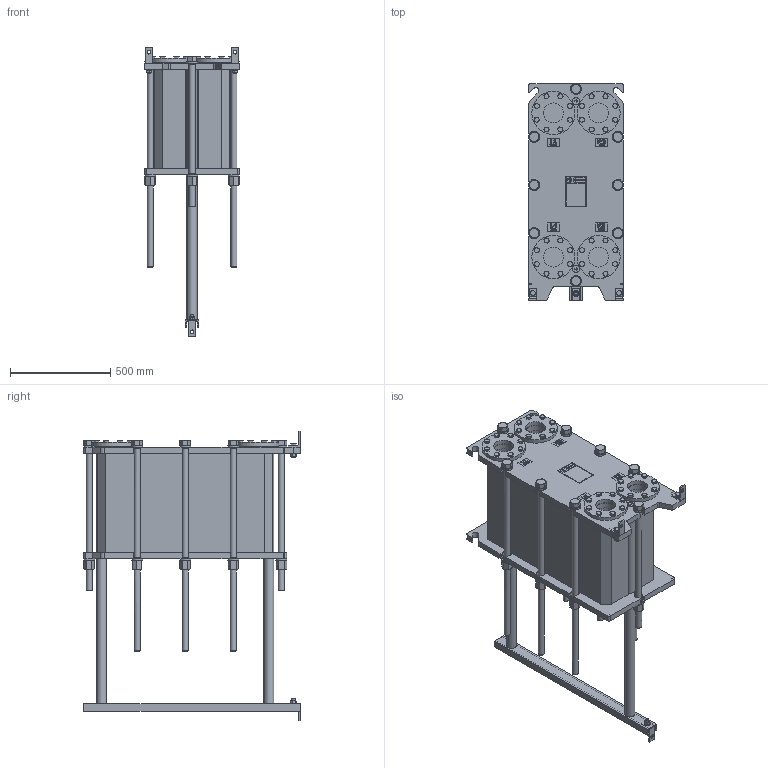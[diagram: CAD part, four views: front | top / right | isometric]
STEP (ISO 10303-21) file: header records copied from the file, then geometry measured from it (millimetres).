
FILE_DESCRIPTION (( 'STEP AP214' ), '1' );
FILE_NAME ('ÏÒ SX100 ðåä.4 ê ñèãìà 134...220.STEP', '2021-04-12T23:33:10', ( '' ), ( '' ), 'SwSTEP 2.0', 'SolidWorks 2018', '' );
FILE_SCHEMA (( 'AUTOMOTIVE_DESIGN' ));
Length unit declared in the file: millimetre
Products named in the file (3): ÏÒ SX100 ðåä.4 ê ñèãìà1; ÏÒ SX100 ðåä.4 ê ñèãìà2 134...220; ÏÒ SX100 ðåä.4 ê ñèãìà 134...220
Assembly tree (2 placements, depth 2):
  ÏÒ SX100 ðåä.4 ê ñèãìà 134...220
    ÏÒ SX100 ðåä.4 ê ñèãìà2 134...220
    ÏÒ SX100 ðåä.4 ê ñèãìà1
Bounding box: 472.88 x 1081.48 x 1444 mm (x, y, z)
Volume: 185109669.6 mm3; surface area: 6667225 mm2
Topology: 47 solids, 53 shells, 2534 faces, 5971 edges, 3771 vertices
Faces by surface type: plane 1252, cone 661, cylinder 307, bspline 275, torus 39
Full cylindrical faces by diameter (mm): 15 x32, 16 x38, 17 x3, 18 x39, 20 x8, 22 x4, 23 x2, 30 x19, 32 x16, 35.38 x2, 37 x4, 41 x16, 50 x2, 55 x16, 100 x4, 100.01 x4, 102 x8, 130 x4, 215 x4
Entity records: 106394 total; most frequent: CARTESIAN_POINT 25539, ORIENTED_EDGE 10810, DIRECTION 9801, EDGE_CURVE 5405, VERTEX_POINT 3680, AXIS2_PLACEMENT_3D 3582, EDGE_LOOP 3397, FACE_OUTER_BOUND 2798
